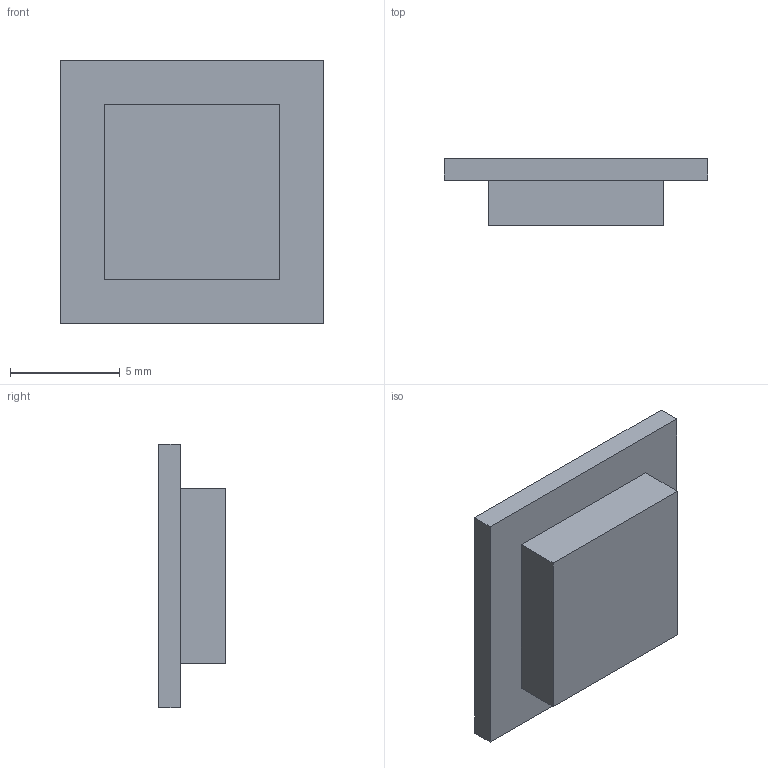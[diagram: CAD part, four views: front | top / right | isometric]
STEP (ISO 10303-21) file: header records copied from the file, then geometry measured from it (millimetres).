
FILE_DESCRIPTION(('Open CASCADE Model'),'2;1');
FILE_NAME('Open CASCADE Shape Model','2026-11-09T10:20:43',('Author'),( 'Open CASCADE'),'Open CASCADE STEP processor 7.8','Open CASCADE 7.8' ,'Unknown');
FILE_SCHEMA(('AUTOMOTIVE_DESIGN { 1 0 10303 214 1 1 1 1 }'));
Length unit declared in the file: millimetre
Products named in the file (1): Open CASCADE STEP translator 7.8 6
Bounding box: 12 x 3.05 x 12 mm (x, y, z)
Volume: 187 mm3; surface area: 460.4 mm2
Topology: 1 solids, 1 shells, 16 faces, 36 edges, 24 vertices
Faces by surface type: plane 16
Entity records: 910 total; most frequent: CARTESIAN_POINT 157, DIRECTION 134, LINE 100, VECTOR 100, ORIENTED_EDGE 72, PCURVE 72, DEFINITIONAL_REPRESENTATION 72, EDGE_CURVE 36
